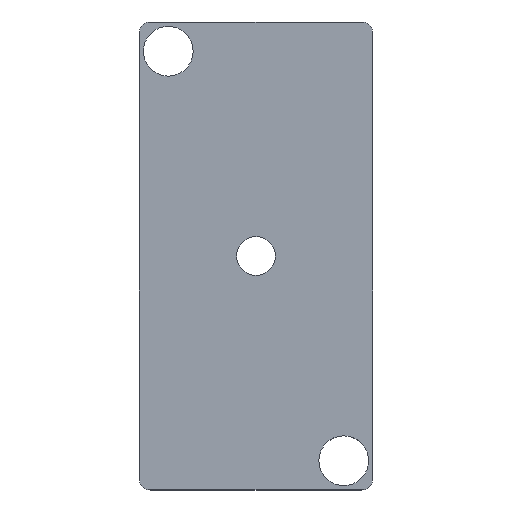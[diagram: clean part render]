
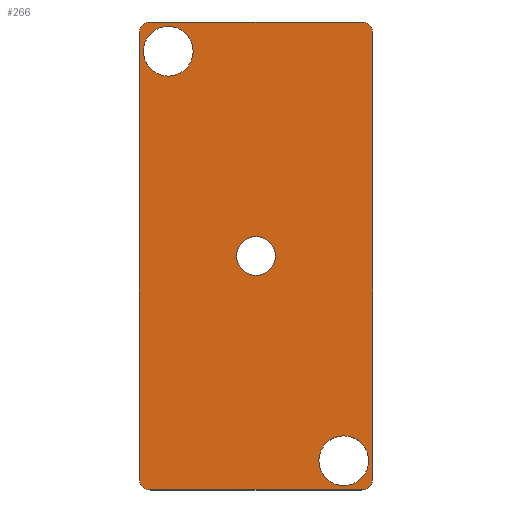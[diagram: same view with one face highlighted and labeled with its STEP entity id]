
A CAD part, top view. The second image highlights one B-rep face of the part: STEP entity #266.
In plain terms, the highlighted planar face has unit normal (0, 0, 1).
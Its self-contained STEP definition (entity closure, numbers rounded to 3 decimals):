
#18=FACE_BOUND('',#56,.T.);
#19=FACE_BOUND('',#57,.T.);
#20=FACE_BOUND('',#58,.T.);
#26=PLANE('',#316);
#39=FACE_OUTER_BOUND('',#55,.T.);
#55=EDGE_LOOP('',(#233,#234,#235,#236,#237,#238,#239,#240));
#56=EDGE_LOOP('',(#241,#242));
#57=EDGE_LOOP('',(#243,#244));
#58=EDGE_LOOP('',(#245,#246));
#63=LINE('',#413,#82);
#69=LINE('',#439,#88);
#72=LINE('',#447,#91);
#77=LINE('',#471,#96);
#82=VECTOR('',#331,10.);
#88=VECTOR('',#357,10.);
#91=VECTOR('',#366,10.);
#96=VECTOR('',#395,10.);
#97=CIRCLE('',#288,2.);
#105=CIRCLE('',#299,2.);
#106=CIRCLE('',#302,2.);
#107=CIRCLE('',#305,2.);
#108=CIRCLE('',#307,3.324);
#109=CIRCLE('',#308,3.324);
#110=CIRCLE('',#310,4.25);
#111=CIRCLE('',#311,4.25);
#112=CIRCLE('',#313,4.25);
#113=CIRCLE('',#314,4.25);
#114=VERTEX_POINT('',#400);
#115=VERTEX_POINT('',#401);
#119=VERTEX_POINT('',#411);
#128=VERTEX_POINT('',#433);
#129=VERTEX_POINT('',#437);
#130=VERTEX_POINT('',#441);
#131=VERTEX_POINT('',#445);
#132=VERTEX_POINT('',#449);
#133=VERTEX_POINT('',#453);
#134=VERTEX_POINT('',#454);
#135=VERTEX_POINT('',#459);
#136=VERTEX_POINT('',#460);
#137=VERTEX_POINT('',#465);
#138=VERTEX_POINT('',#466);
#139=EDGE_CURVE('',#114,#115,#97,.T.);
#145=EDGE_CURVE('',#119,#114,#63,.T.);
#155=EDGE_CURVE('',#128,#119,#105,.T.);
#158=EDGE_CURVE('',#129,#128,#69,.T.);
#159=EDGE_CURVE('',#130,#129,#106,.T.);
#162=EDGE_CURVE('',#131,#130,#72,.T.);
#163=EDGE_CURVE('',#132,#131,#107,.T.);
#165=EDGE_CURVE('',#133,#134,#108,.T.);
#166=EDGE_CURVE('',#134,#133,#109,.T.);
#168=EDGE_CURVE('',#135,#136,#110,.T.);
#169=EDGE_CURVE('',#136,#135,#111,.T.);
#171=EDGE_CURVE('',#137,#138,#112,.T.);
#172=EDGE_CURVE('',#138,#137,#113,.T.);
#174=EDGE_CURVE('',#115,#132,#77,.T.);
#233=ORIENTED_EDGE('',*,*,#139,.F.);
#234=ORIENTED_EDGE('',*,*,#145,.F.);
#235=ORIENTED_EDGE('',*,*,#155,.F.);
#236=ORIENTED_EDGE('',*,*,#158,.F.);
#237=ORIENTED_EDGE('',*,*,#159,.F.);
#238=ORIENTED_EDGE('',*,*,#162,.F.);
#239=ORIENTED_EDGE('',*,*,#163,.F.);
#240=ORIENTED_EDGE('',*,*,#174,.F.);
#241=ORIENTED_EDGE('',*,*,#165,.T.);
#242=ORIENTED_EDGE('',*,*,#166,.T.);
#243=ORIENTED_EDGE('',*,*,#168,.T.);
#244=ORIENTED_EDGE('',*,*,#169,.T.);
#245=ORIENTED_EDGE('',*,*,#171,.T.);
#246=ORIENTED_EDGE('',*,*,#172,.T.);
#266=ADVANCED_FACE('',(#39,#18,#19,#20),#26,.T.);
#288=AXIS2_PLACEMENT_3D('',#402,#321,#322);
#299=AXIS2_PLACEMENT_3D('',#434,#351,#352);
#302=AXIS2_PLACEMENT_3D('',#442,#360,#361);
#305=AXIS2_PLACEMENT_3D('',#450,#369,#370);
#307=AXIS2_PLACEMENT_3D('',#455,#374,#375);
#308=AXIS2_PLACEMENT_3D('',#456,#376,#377);
#310=AXIS2_PLACEMENT_3D('',#461,#381,#382);
#311=AXIS2_PLACEMENT_3D('',#462,#383,#384);
#313=AXIS2_PLACEMENT_3D('',#467,#388,#389);
#314=AXIS2_PLACEMENT_3D('',#468,#390,#391);
#316=AXIS2_PLACEMENT_3D('',#472,#396,#397);
#321=DIRECTION('center_axis',(0.,0.,-1.));
#322=DIRECTION('ref_axis',(-0.707,-0.707,0.));
#331=DIRECTION('',(-1.,0.,0.));
#351=DIRECTION('center_axis',(0.,0.,-1.));
#352=DIRECTION('ref_axis',(0.707,-0.707,0.));
#357=DIRECTION('',(0.,-1.,0.));
#360=DIRECTION('center_axis',(0.,0.,-1.));
#361=DIRECTION('ref_axis',(0.707,0.707,0.));
#366=DIRECTION('',(1.,0.,0.));
#369=DIRECTION('center_axis',(0.,0.,-1.));
#370=DIRECTION('ref_axis',(-0.707,0.707,0.));
#374=DIRECTION('center_axis',(0.,0.,-1.));
#375=DIRECTION('ref_axis',(1.,0.,0.));
#376=DIRECTION('center_axis',(0.,0.,-1.));
#377=DIRECTION('ref_axis',(1.,0.,0.));
#381=DIRECTION('center_axis',(0.,0.,-1.));
#382=DIRECTION('ref_axis',(1.,0.,0.));
#383=DIRECTION('center_axis',(0.,0.,-1.));
#384=DIRECTION('ref_axis',(1.,0.,0.));
#388=DIRECTION('center_axis',(0.,0.,-1.));
#389=DIRECTION('ref_axis',(1.,0.,0.));
#390=DIRECTION('center_axis',(0.,0.,-1.));
#391=DIRECTION('ref_axis',(1.,0.,0.));
#395=DIRECTION('',(0.,1.,0.));
#396=DIRECTION('center_axis',(0.,0.,1.));
#397=DIRECTION('ref_axis',(1.,0.,0.));
#400=CARTESIAN_POINT('',(-14.647,-56.916,8.));
#401=CARTESIAN_POINT('',(-16.647,-54.916,8.));
#402=CARTESIAN_POINT('Origin',(-14.647,-54.916,8.));
#411=CARTESIAN_POINT('',(21.353,-56.916,8.));
#413=CARTESIAN_POINT('',(23.353,-56.916,8.));
#433=CARTESIAN_POINT('',(23.353,-54.916,8.));
#434=CARTESIAN_POINT('Origin',(21.353,-54.916,8.));
#437=CARTESIAN_POINT('',(23.353,21.084,8.));
#439=CARTESIAN_POINT('',(23.353,23.084,8.));
#441=CARTESIAN_POINT('',(21.353,23.084,8.));
#442=CARTESIAN_POINT('Origin',(21.353,21.084,8.));
#445=CARTESIAN_POINT('',(-14.647,23.084,8.));
#447=CARTESIAN_POINT('',(-16.647,23.084,8.));
#449=CARTESIAN_POINT('',(-16.647,21.084,8.));
#450=CARTESIAN_POINT('Origin',(-14.647,21.084,8.));
#453=CARTESIAN_POINT('',(6.677,-16.916,8.));
#454=CARTESIAN_POINT('',(0.03,-16.916,8.));
#455=CARTESIAN_POINT('Origin',(3.353,-16.916,8.));
#456=CARTESIAN_POINT('Origin',(3.353,-16.916,8.));
#459=CARTESIAN_POINT('',(22.603,-51.916,8.));
#460=CARTESIAN_POINT('',(14.103,-51.916,8.));
#461=CARTESIAN_POINT('Origin',(18.353,-51.916,8.));
#462=CARTESIAN_POINT('Origin',(18.353,-51.916,8.));
#465=CARTESIAN_POINT('',(-7.397,18.084,8.));
#466=CARTESIAN_POINT('',(-15.897,18.084,8.));
#467=CARTESIAN_POINT('Origin',(-11.647,18.084,8.));
#468=CARTESIAN_POINT('Origin',(-11.647,18.084,8.));
#471=CARTESIAN_POINT('',(-16.647,-56.916,8.));
#472=CARTESIAN_POINT('Origin',(3.353,-16.916,8.));
